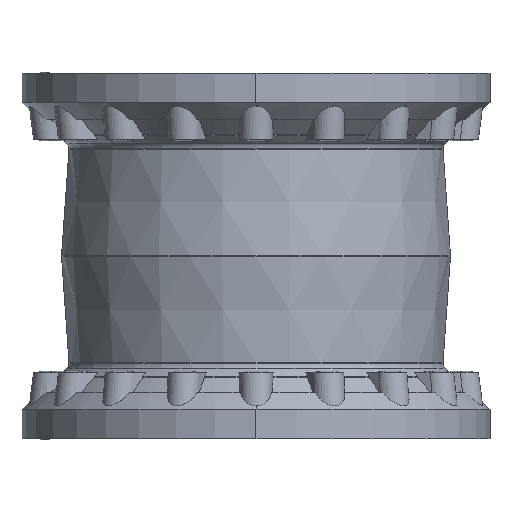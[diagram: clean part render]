
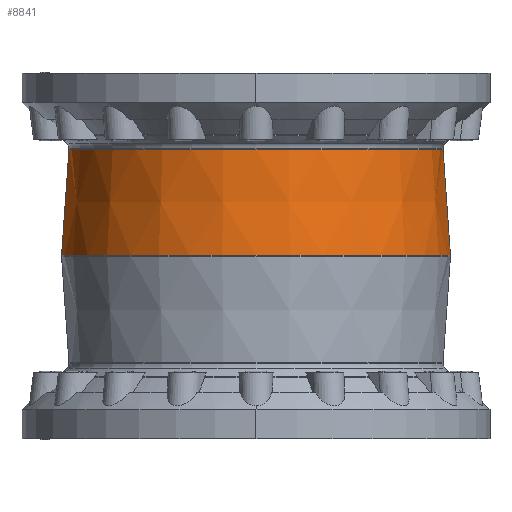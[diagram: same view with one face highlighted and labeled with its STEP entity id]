
A CAD part, front view. The second image highlights one B-rep face of the part: STEP entity #8841.
In plain terms, the highlighted conical face has half-angle 4 degrees and reference radius 399.599 mm.
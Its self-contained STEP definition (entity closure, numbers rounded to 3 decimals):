
#516 = ORIENTED_EDGE ( 'NONE', *, *, #25066, .T. ) ;
#964 = AXIS2_PLACEMENT_3D ( 'NONE', #25625, #4002, #13334 ) ;
#3994 = DIRECTION ( 'NONE',  ( 0.07, 0., -0.998 ) ) ;
#4002 = DIRECTION ( 'NONE',  ( 0., 0., -1. ) ) ;
#5300 = AXIS2_PLACEMENT_3D ( 'NONE', #26356, #14231, #11688 ) ;
#5482 = CONICAL_SURFACE ( 'NONE', #964, 399.599, 0.07 ) ;
#6598 = VECTOR ( 'NONE', #3994, 1000. ) ;
#7921 = CARTESIAN_POINT ( 'NONE',  ( -388.852, 0., 290.683 ) ) ;
#8116 = CARTESIAN_POINT ( 'NONE',  ( -399.599, 0., 137. ) ) ;
#8841 = ADVANCED_FACE ( 'Defeatured_0_433', ( #25456 ), #5482, .T. ) ;
#9588 = DIRECTION ( 'NONE',  ( 0., 0., 1. ) ) ;
#10461 = AXIS2_PLACEMENT_3D ( 'NONE', #31229, #9588, #12422 ) ;
#11688 = DIRECTION ( 'NONE',  ( 1., 0., 0. ) ) ;
#12422 = DIRECTION ( 'NONE',  ( 1., 0., 0. ) ) ;
#12543 = LINE ( 'NONE', #8116, #30007 ) ;
#13334 = DIRECTION ( 'NONE',  ( 1., 0., 0. ) ) ;
#13426 = EDGE_CURVE ( 'Defeatured_0_434+Defeatured_0_433+Defeatured_0_433+Defeatured_0_433', #17348, #21594, #21412, .T. ) ;
#13698 = ORIENTED_EDGE ( 'NONE', *, *, #13426, .F. ) ;
#14231 = DIRECTION ( 'NONE',  ( 0., 0., 1. ) ) ;
#15494 = EDGE_CURVE ( 'Defeatured_0_433+Defeatured_0_222+Defeatured_0_222+Defeatured_0_222', #30799, #20026, #15496, .T. ) ;
#15496 = CIRCLE ( 'NONE', #10461, 404.291 ) ;
#17348 = VERTEX_POINT ( 'NONE', #7921 ) ;
#17760 = DIRECTION ( 'NONE',  ( -0.07, 0., -0.998 ) ) ;
#20026 = VERTEX_POINT ( 'NONE', #30482 ) ;
#20580 = LINE ( 'NONE', #30223, #6598 ) ;
#20649 = EDGE_CURVE ( 'NONE', #21594, #20026, #20580, .T. ) ;
#20823 = EDGE_LOOP ( 'NONE', ( #13698, #516, #24335, #22678 ) ) ;
#21412 = CIRCLE ( 'NONE', #5300, 388.852 ) ;
#21594 = VERTEX_POINT ( 'NONE', #24719 ) ;
#22678 = ORIENTED_EDGE ( 'NONE', *, *, #20649, .F. ) ;
#23345 = CARTESIAN_POINT ( 'NONE',  ( -404.291, 0., 69.895 ) ) ;
#24335 = ORIENTED_EDGE ( 'NONE', *, *, #15494, .T. ) ;
#24719 = CARTESIAN_POINT ( 'NONE',  ( 388.852, 0., 290.683 ) ) ;
#25066 = EDGE_CURVE ( 'NONE', #17348, #30799, #12543, .T. ) ;
#25456 = FACE_OUTER_BOUND ( 'NONE', #20823, .T. ) ;
#25625 = CARTESIAN_POINT ( 'NONE',  ( 0., 0., 137. ) ) ;
#26356 = CARTESIAN_POINT ( 'NONE',  ( 0., 0., 290.683 ) ) ;
#30007 = VECTOR ( 'NONE', #17760, 1000. ) ;
#30223 = CARTESIAN_POINT ( 'NONE',  ( 399.599, 0., 137. ) ) ;
#30482 = CARTESIAN_POINT ( 'NONE',  ( 404.291, 0., 69.895 ) ) ;
#30799 = VERTEX_POINT ( 'NONE', #23345 ) ;
#31229 = CARTESIAN_POINT ( 'NONE',  ( 0., 0., 69.895 ) ) ;
